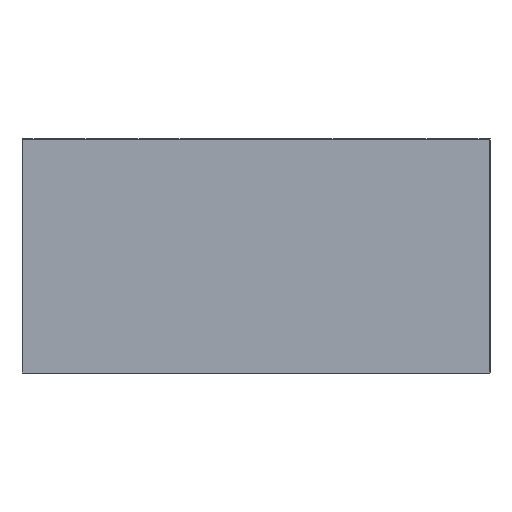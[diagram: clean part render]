
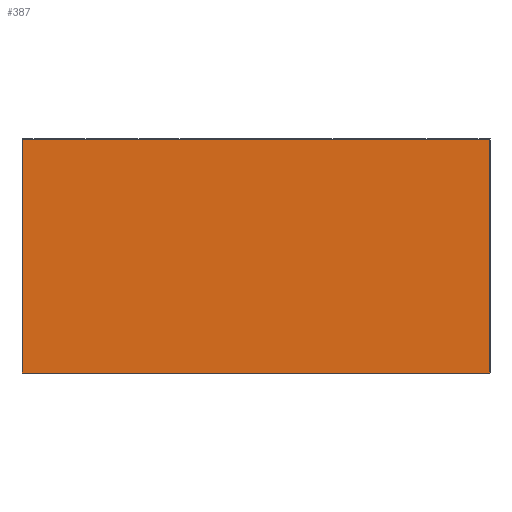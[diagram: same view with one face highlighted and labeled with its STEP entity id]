
A CAD part, left-side view. The second image highlights one B-rep face of the part: STEP entity #387.
In plain terms, the highlighted planar face has unit normal (-1, 0, 0).
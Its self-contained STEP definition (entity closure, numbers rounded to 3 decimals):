
#264=DIRECTION('',(0.,0.,1.));
#265=VECTOR('',#264,100.);
#266=CARTESIAN_POINT('',(-100.,100.,0.));
#267=LINE('',#266,#265);
#276=DIRECTION('',(0.,-1.,0.));
#277=VECTOR('',#276,200.);
#278=CARTESIAN_POINT('',(-100.,100.,0.));
#279=LINE('',#278,#277);
#280=DIRECTION('',(0.,1.,0.));
#281=VECTOR('',#280,200.);
#282=CARTESIAN_POINT('',(-100.,-100.,100.));
#283=LINE('',#282,#281);
#284=DIRECTION('',(0.,0.,1.));
#285=VECTOR('',#284,100.);
#286=CARTESIAN_POINT('',(-100.,-100.,0.));
#287=LINE('',#286,#285);
#292=CARTESIAN_POINT('',(-100.,100.,0.));
#293=CARTESIAN_POINT('',(-100.,100.,100.));
#294=VERTEX_POINT('',#292);
#295=VERTEX_POINT('',#293);
#297=CARTESIAN_POINT('',(-100.,-100.,100.));
#299=VERTEX_POINT('',#297);
#300=CARTESIAN_POINT('',(-100.,-100.,0.));
#301=VERTEX_POINT('',#300);
#376=CARTESIAN_POINT('',(-100.,-100.,100.));
#377=DIRECTION('',(1.,0.,0.));
#378=DIRECTION('',(0.,0.,-1.));
#379=AXIS2_PLACEMENT_3D('',#376,#377,#378);
#380=PLANE('',#379);
#381=ORIENTED_EDGE('',*,*,#328,.F.);
#382=ORIENTED_EDGE('',*,*,#344,.T.);
#383=ORIENTED_EDGE('',*,*,#357,.F.);
#384=ORIENTED_EDGE('',*,*,#369,.F.);
#385=EDGE_LOOP('',(#381,#382,#383,#384));
#386=FACE_OUTER_BOUND('',#385,.F.);
#387=ADVANCED_FACE('',(#386),#380,.F.);
#328=EDGE_CURVE('',#294,#301,#279,.T.);
#344=EDGE_CURVE('',#294,#295,#267,.T.);
#357=EDGE_CURVE('',#299,#295,#283,.T.);
#369=EDGE_CURVE('',#301,#299,#287,.T.);
